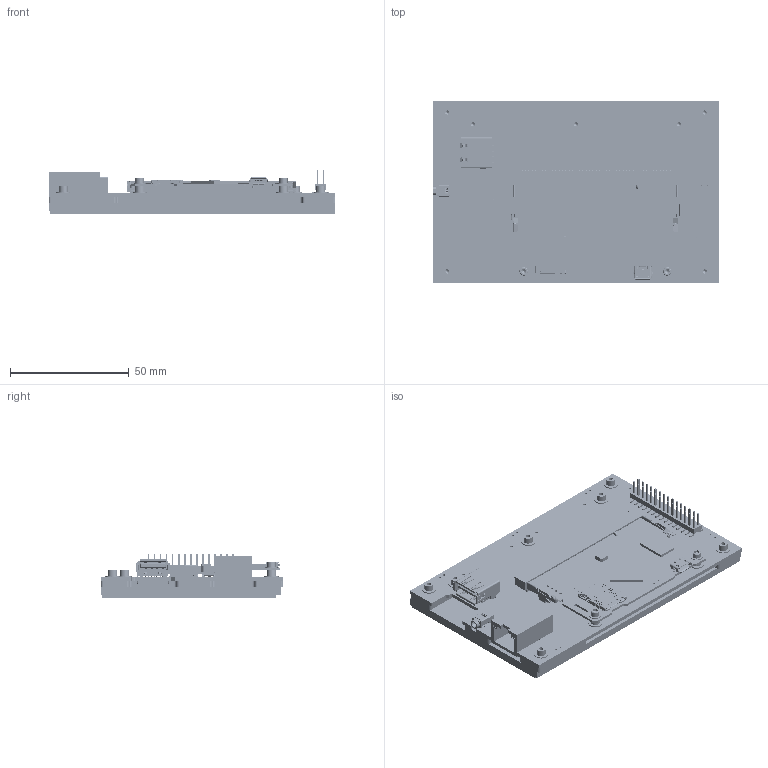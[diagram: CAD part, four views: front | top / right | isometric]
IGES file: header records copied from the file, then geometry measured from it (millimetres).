
Start section: SolidWorks IGES file using analytic representation for surfaces
Global section: file name: E:\SVN_Working_Folder\proddev\cfa_10058\trunk\hardware\3d_model\CFA921_ASSY.IGS; native system: SolidWorks 2013; preprocessor: SolidWorks 2013; author: brian; date: 131007.122748; units: millimetre
Bounding box: 121 x 77 x 18.23 mm (x, y, z)
Surface area: 87105.5 mm2 (no closed solid volume)
Topology: 0 solids, 0 shells, 9120 faces, 68663 edges, 68638 vertices
Faces by surface type: bspline 7415, revolution 1705
